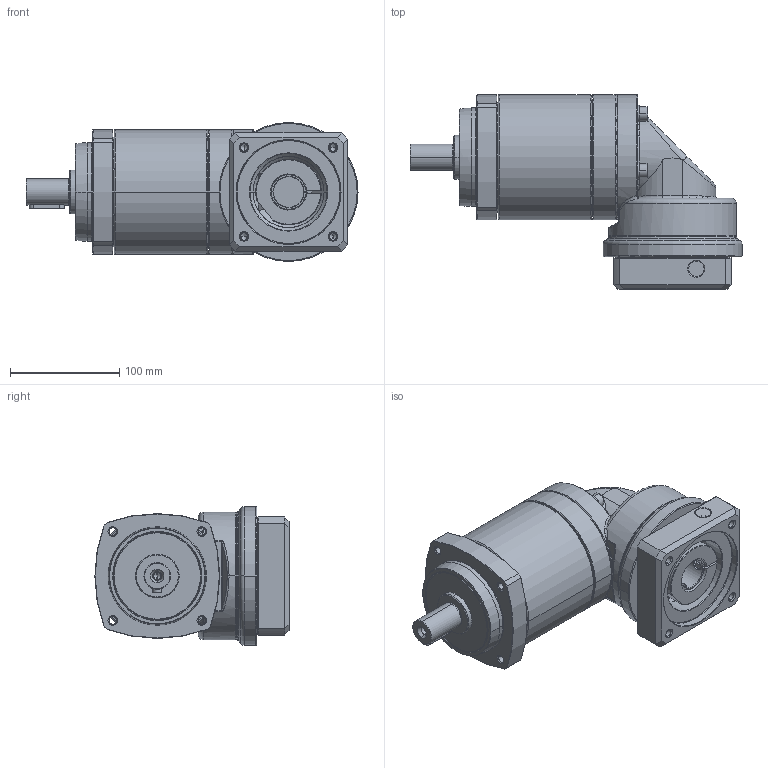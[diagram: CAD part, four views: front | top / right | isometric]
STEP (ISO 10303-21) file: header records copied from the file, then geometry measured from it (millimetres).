
FILE_DESCRIPTION((''),'2;1');
FILE_NAME('PS2R-D_2ST_28-P0411600101_ASM','2016-06-01T',('d01943'),(''),'PRO/ENGINEER BY PARAMETRIC TECHNOLOGY CORPORATION, 2008410','PRO/ENGINEER BY PARAMETRIC TECHNOLOGY CORPORATION, 2008410','');
FILE_SCHEMA(('CONFIG_CONTROL_DESIGN'));
Length unit declared in the file: millimetre
Products named in the file (12): P1328410001; P0251400001; P0350401401; P1349400001; P1017400001; P0713402001; P0503600008; P1350400201; P0411600101; P1702500001; 2111B108035; PS2R-D_2ST_28-P0411600101_ASM
Assembly tree (14 placements, depth 2):
  PS2R-D_2ST_28-P0411600101_ASM
    P1328410001
    P0251400001
    P0350401401
    P1349400001
    P1017400001
    P0713402001
    P0503600008
    P1350400201
    P0411600101
    P1702500001
    2111B108035  x4
Bounding box: 303.5 x 177.5 x 127 mm (x, y, z)
Volume: 1681553.5 mm3; surface area: 348092.8 mm2
Topology: 14 solids, 14 shells, 715 faces, 1579 edges, 914 vertices
Faces by surface type: cylinder 218, cone 212, plane 155, torus 96, bspline 34
Entity records: 22816 total; most frequent: CARTESIAN_POINT 9003, DIRECTION 3049, ORIENTED_EDGE 2682, EDGE_CURVE 1341, AXIS2_PLACEMENT_3D 1291, VERTEX_POINT 794, EDGE_LOOP 697, CIRCLE 683
